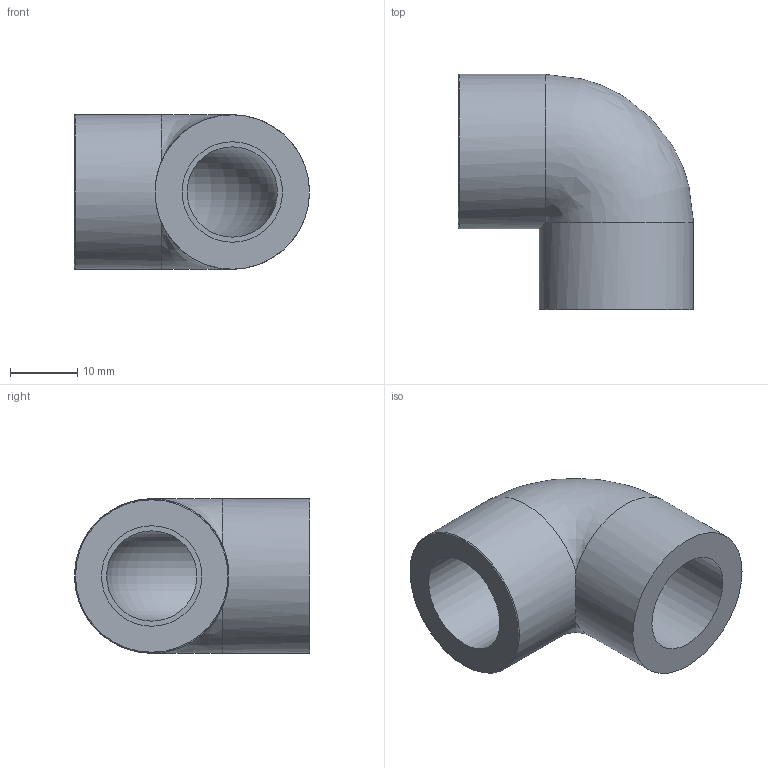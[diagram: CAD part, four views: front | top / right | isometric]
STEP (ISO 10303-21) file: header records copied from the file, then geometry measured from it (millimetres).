
FILE_DESCRIPTION(/* description */ ('PLASSON THREADED 90° ELBOW PVC 3/8"'),/* implementation_level */ '2;1');
FILE_NAME(/* name */ 'C:\Dropbox\KIMPROJECTS-Inventor\99-16-3568-Processing\PVC Catalog 2017\050501\050501003.ipt.stp',/* time_stamp */ '2017-12-07T15:55:47+02:00',/* author */ ('KIM'),/* organization */ (''),/* preprocessor_version */ 'ST-DEVELOPER v15.6',/* originating_system */ 'Autodesk Inventor 2015',/* authorisation */ '');
FILE_SCHEMA (('AUTOMOTIVE_DESIGN { 1 0 10303 214 3 1 1 }'));
Length unit declared in the file: millimetre
Products named in the file (1): 050501003
Bounding box: 35 x 35 x 23 mm (x, y, z)
Volume: 10825.3 mm3; surface area: 5530.2 mm2
Topology: 1 solids, 1 shells, 11 faces, 22 edges, 13 vertices
Faces by surface type: cylinder 4, plane 4, torus 2, bspline 1
Full cylindrical faces by diameter (mm): 14.95 x2, 23 x2
Entity records: 280 total; most frequent: CARTESIAN_POINT 61, DIRECTION 46, ORIENTED_EDGE 24, AXIS2_PLACEMENT_3D 23, EDGE_LOOP 21, EDGE_CURVE 12, FACE_OUTER_BOUND 11, CIRCLE 11
